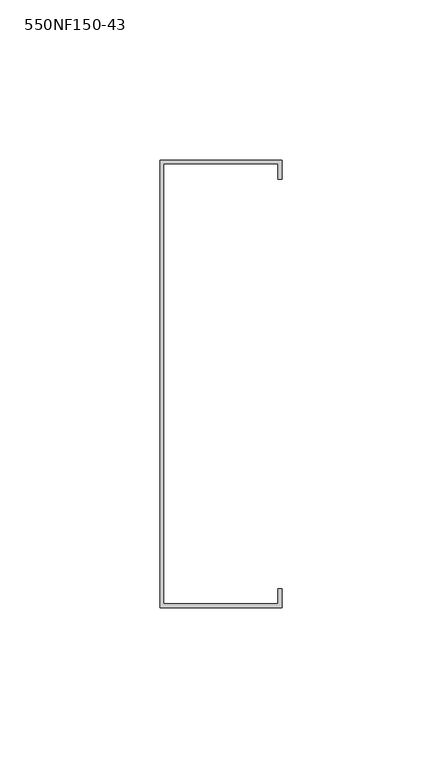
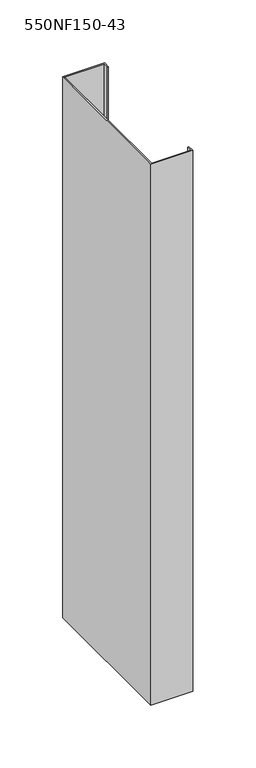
"""IFC4 building model written with IfcOpenShell, lengths in millimetres: column geometry, BIMSF-SSMA-S-Column : 550NF150-43."""

from ifc_helpers import new_model, si_unit, frame, origin, place, context, project, spatial, polyline, outline, extrude, source, transform, mapped, element, save


def column_550nf150_43_d5eec0c1(model_context):
    return source(origin(), model_context, "Body", "SweptSolid", [
        extrude(outline(polyline([(-11.9977877, -80.5871249), (-11.9977877, 59.1128751), (26.1022123, 59.1128751), (26.1022123, 53.1879908), (24.952528, 53.1879908), (24.952528, 57.9631908), (-10.8481035, 57.9631908), (-10.8481035, -79.4374407), (24.952528, -79.4374407), (24.952528, -74.6622407), (26.1022123, -74.6622407), (26.1022123, -80.5871249), (-11.9977877, -80.5871249)])), frame((0.0, 0.0, 5525.3929688), z_axis=(0.0, 0.0, 1.0), x_axis=(1.0, 0.0, 0.0)), (0.0, 0.0, 1.0), 524.0396659),
    ])


if __name__ == "__main__":
    model = new_model("IFC4")
    model_context = context("Model", 3, world=origin())
    ifc_project = project(units=[si_unit("LENGTHUNIT", "METRE", prefix="MILLI")], contexts=[model_context])
    site = spatial("IfcSite", under=ifc_project)
    building = spatial("IfcBuilding", under=site)
    placement = place(None, origin())
    column_550nf150_43_shape = column_550nf150_43_d5eec0c1(model_context)
    element("IfcColumn", 1, ObjectType="BIMSF-SSMA-S-Column : 550NF150-43", at=placement, inside=building, context=model_context, shape_type="MappedRepresentation", body=[
        mapped(column_550nf150_43_shape, transform((0.0, 0.0, 0.0), x_axis=(1.0, 0.0, 0.0), y_axis=(0.0, 1.0, 0.0), z_axis=(0.0, 0.0, 1.0))),
    ])
    save(model, "model.ifc")
